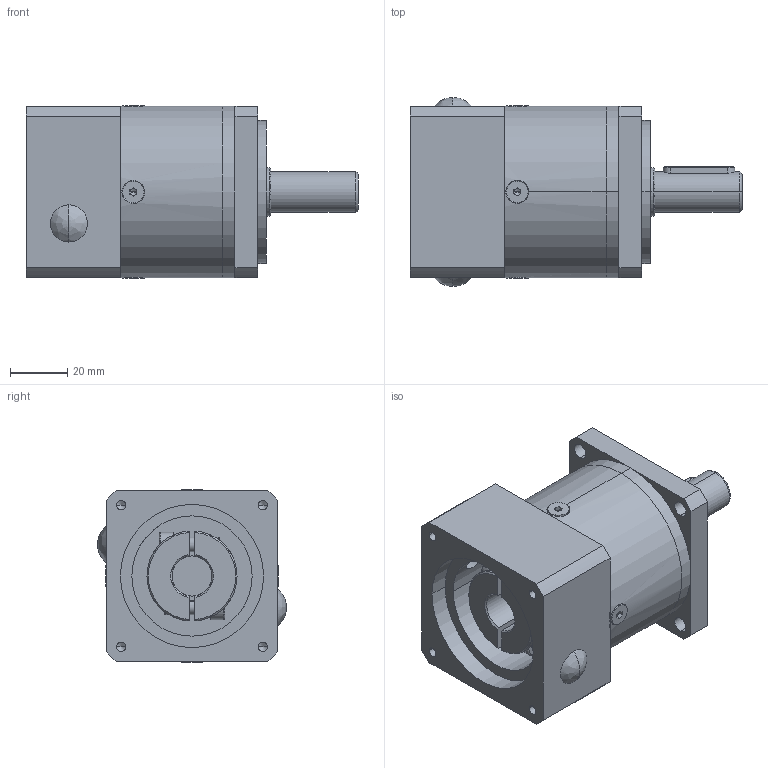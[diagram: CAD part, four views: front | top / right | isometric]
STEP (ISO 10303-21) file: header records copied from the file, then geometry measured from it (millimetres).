
FILE_DESCRIPTION (( 'STEP AP214' ), '1' );
FILE_NAME ('PLF-060-L1-S2-P2 14-50-70-M4.STEP', '2023-08-16T05:40:53', ( '微软用户' ), ( '微软中国' ), 'SwSTEP 2.0', 'SolidWorks 2018', '' );
FILE_SCHEMA (( 'AUTOMOTIVE_DESIGN' ));
Length unit declared in the file: millimetre
Products named in the file (8): PLF-060-L1-S2-P2 14-50-70-M4; PLF-060一级内齿圈-外形; hexagon socket countersunk head screws gb_GB_FASTENER_SCREWS_HSCHS M4X8-N; PLF-060输入端盖-外形50-M4-70; hexagon socket head cap screws gb_GB_FASTENER_SCREWS_HSHCS M5X16-N; PLF-060薊粣ん-俋倛14; PLF-060黑裔9; PLF-060怀堤傷裔-俋倛
Assembly tree (12 placements, depth 2):
  PLF-060-L1-S2-P2 14-50-70-M4
    PLF-060怀堤傷裔-俋倛
    PLF-060一级内齿圈-外形
    PLF-060输入端盖-外形50-M4-70
    PLF-060薊粣ん-俋倛14
    hexagon socket head cap screws gb_GB_FASTENER_SCREWS_HSHCS M5X16-N  x2
    PLF-060黑裔9  x2
    hexagon socket countersunk head screws gb_GB_FASTENER_SCREWS_HSCHS M4X8-N  x4
Bounding box: 116 x 66 x 60.36 mm (x, y, z)
Volume: 170681.3 mm3; surface area: 54284.6 mm2
Topology: 14 solids, 14 shells, 380 faces, 908 edges, 551 vertices
Faces by surface type: plane 153, cylinder 130, cone 65, bspline 32
Entity records: 8755 total; most frequent: CARTESIAN_POINT 2451, DIRECTION 1293, ORIENTED_EDGE 1204, EDGE_CURVE 602, AXIS2_PLACEMENT_3D 511, VERTEX_POINT 382, EDGE_LOOP 298, VECTOR 271
